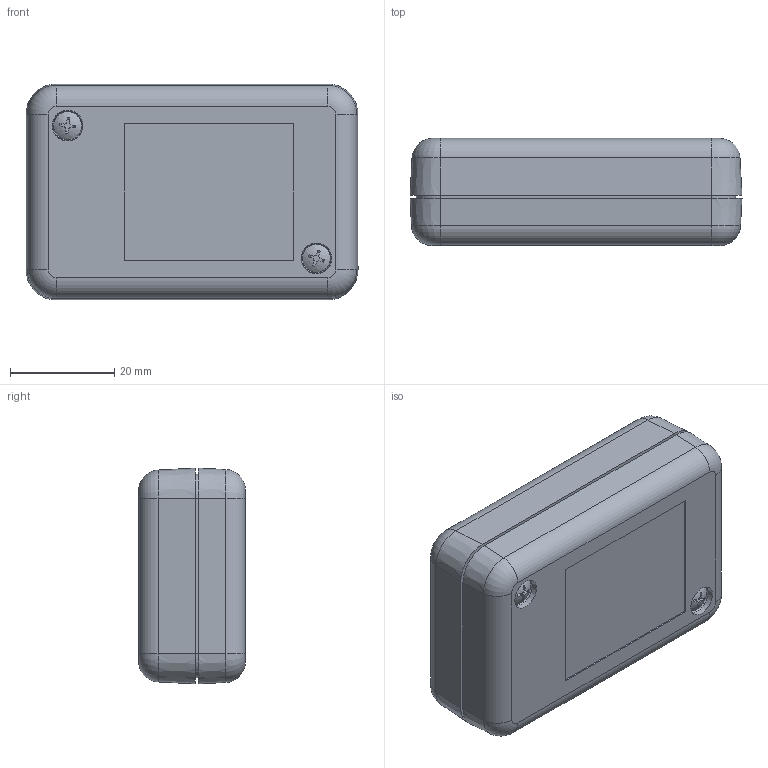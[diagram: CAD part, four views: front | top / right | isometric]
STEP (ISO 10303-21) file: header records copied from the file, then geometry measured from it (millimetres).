
FILE_DESCRIPTION (( 'STEP AP214' ), '1' );
FILE_NAME ('KT-35S0.STEP', '2023-10-05T18:14:04', ( '' ), ( '' ), 'SwSTEP 2.0', 'SolidWorks 2023', '' );
FILE_SCHEMA (( 'AUTOMOTIVE_DESIGN' ));
Length unit declared in the file: inch
Products named in the file (4): SCREWS-HL5-8-BR_default; KT-35S0; KT-35C_KT-35SC0; KT-35B_KT-35B
Assembly tree (4 placements, depth 2):
  KT-35S0
    KT-35B_KT-35B
    KT-35C_KT-35SC0
    SCREWS-HL5-8-BR_default  x2
Bounding box: 63.55 x 20.47 x 41.33 mm (x, y, z)
Volume: 17653.7 mm3; surface area: 17691.1 mm2
Topology: 4 solids, 4 shells, 216 faces, 539 edges, 345 vertices
Faces by surface type: plane 90, cylinder 52, cone 44, torus 20, bspline 8, sphere 2
Full cylindrical faces by diameter (mm): 1.651 x22, 2.929 x2
Entity records: 5905 total; most frequent: CARTESIAN_POINT 2178, DIRECTION 795, ORIENTED_EDGE 696, EDGE_CURVE 348, AXIS2_PLACEMENT_3D 309, VERTEX_POINT 231, EDGE_LOOP 195, VECTOR 177
